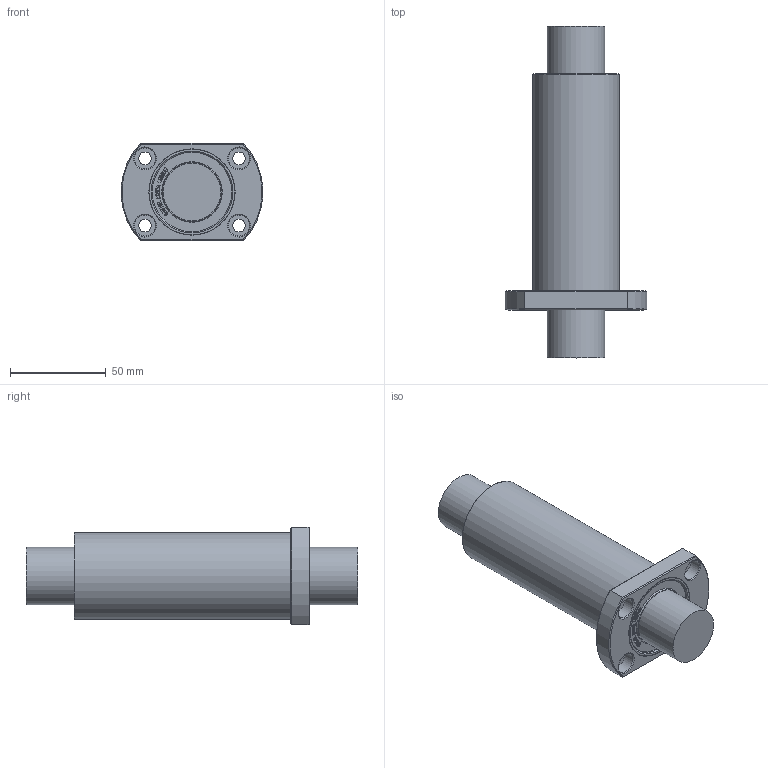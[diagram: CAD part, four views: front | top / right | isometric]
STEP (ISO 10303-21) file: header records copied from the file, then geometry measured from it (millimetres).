
FILE_DESCRIPTION(/* description */ (''),/* implementation_level */ '2;1');
FILE_NAME(/* name */ 'W:\(01) 2024년 홈페이지 CAD파일 최신화\LMH_L\IPT\LMH30LUU.stp',/* time_stamp */ '2025-01-23T10:15:00+09:00',/* author */ ('서우현'),/* organization */ (''),/* preprocessor_version */ 'ST-DEVELOPER v17.2',/* originating_system */ 'Autodesk Inventor 2019',/* authorisation */ '');
FILE_SCHEMA (('AUTOMOTIVE_DESIGN { 1 0 10303 214 3 1 1 }'));
Length unit declared in the file: millimetre
Products named in the file (1): LM5
Bounding box: 73.74 x 173 x 51 mm (x, y, z)
Volume: 244895.7 mm3; surface area: 31009 mm2
Topology: 1 solids, 1 shells, 878 faces, 2468 edges, 1648 vertices
Faces by surface type: bspline 616, plane 228, cone 16, cylinder 16, torus 2
Full cylindrical faces by diameter (mm): 6.6 x4, 11 x4, 30 x2, 41.4 x2, 45 x2
Entity records: 29902 total; most frequent: CARTESIAN_POINT 10555, ORIENTED_EDGE 4936, EDGE_CURVE 2468, DIRECTION 1836, VERTEX_POINT 1648, B_SPLINE_CURVE_WITH_KNOTS 1232, LINE 1146, VECTOR 1146
